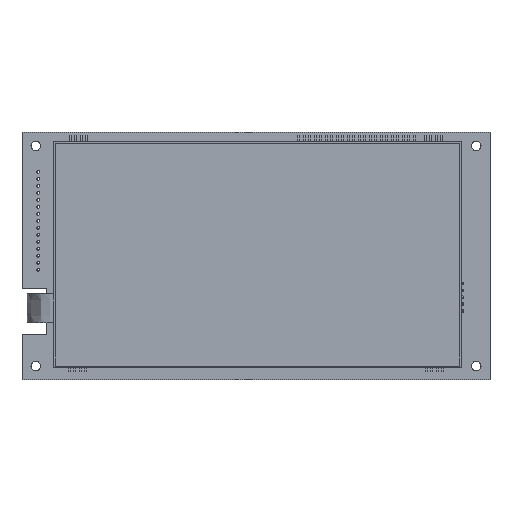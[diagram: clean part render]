
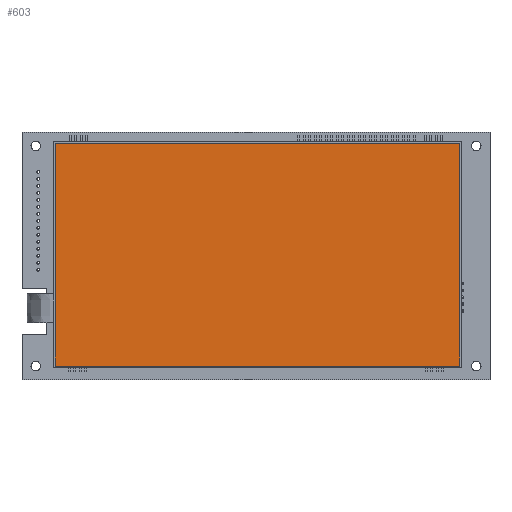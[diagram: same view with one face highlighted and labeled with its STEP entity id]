
A CAD part, top view. The second image highlights one B-rep face of the part: STEP entity #603.
In plain terms, the highlighted planar face has unit normal (0, 0, 1).
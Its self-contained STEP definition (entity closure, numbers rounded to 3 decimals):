
#207=DIRECTION('',(0.,-1.,0.));
#208=VECTOR('',#207,81.);
#209=CARTESIAN_POINT('',(-73.,41.,0.));
#210=LINE('',#209,#208);
#211=DIRECTION('',(-1.,0.,0.));
#212=VECTOR('',#211,147.);
#213=CARTESIAN_POINT('',(74.,41.,0.));
#214=LINE('',#213,#212);
#215=DIRECTION('',(0.,1.,0.));
#216=VECTOR('',#215,81.);
#217=CARTESIAN_POINT('',(74.,-40.,0.));
#218=LINE('',#217,#216);
#219=DIRECTION('',(1.,0.,0.));
#220=VECTOR('',#219,147.);
#221=CARTESIAN_POINT('',(-73.,-40.,0.));
#222=LINE('',#221,#220);
#239=CARTESIAN_POINT('',(-73.,41.,0.));
#240=CARTESIAN_POINT('',(-73.,-40.,0.));
#241=VERTEX_POINT('',#239);
#242=VERTEX_POINT('',#240);
#243=CARTESIAN_POINT('',(74.,-40.,0.));
#244=VERTEX_POINT('',#243);
#245=CARTESIAN_POINT('',(74.,41.,0.));
#246=VERTEX_POINT('',#245);
#590=CARTESIAN_POINT('',(0.,0.,0.));
#591=DIRECTION('',(0.,0.,1.));
#592=DIRECTION('',(1.,0.,0.));
#593=AXIS2_PLACEMENT_3D('',#590,#591,#592);
#594=PLANE('',#593);
#595=ORIENTED_EDGE('',*,*,#364,.F.);
#597=ORIENTED_EDGE('',*,*,#596,.F.);
#599=ORIENTED_EDGE('',*,*,#598,.F.);
#600=ORIENTED_EDGE('',*,*,#583,.F.);
#601=EDGE_LOOP('',(#595,#597,#599,#600));
#602=FACE_OUTER_BOUND('',#601,.F.);
#364=EDGE_CURVE('',#241,#242,#210,.T.);
#583=EDGE_CURVE('',#242,#244,#222,.T.);
#596=EDGE_CURVE('',#246,#241,#214,.T.);
#598=EDGE_CURVE('',#244,#246,#218,.T.);
#603=ADVANCED_FACE('',(#602),#594,.T.);
